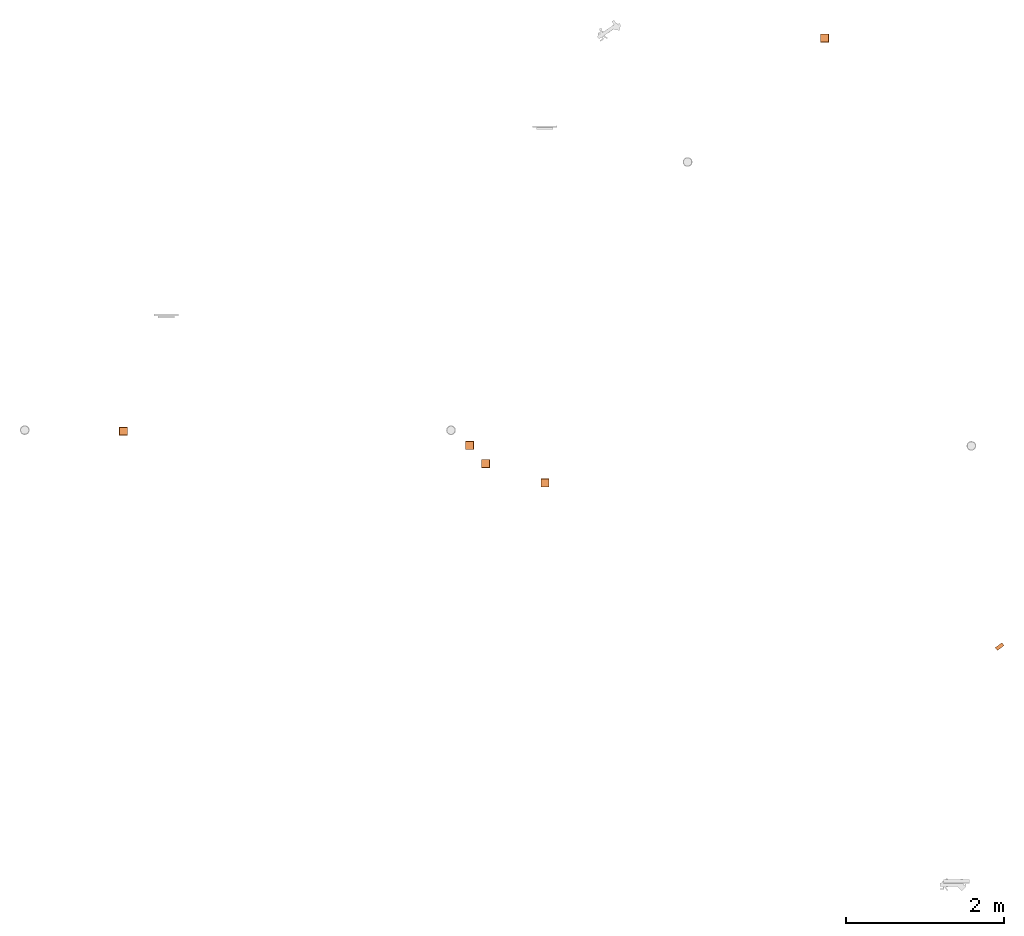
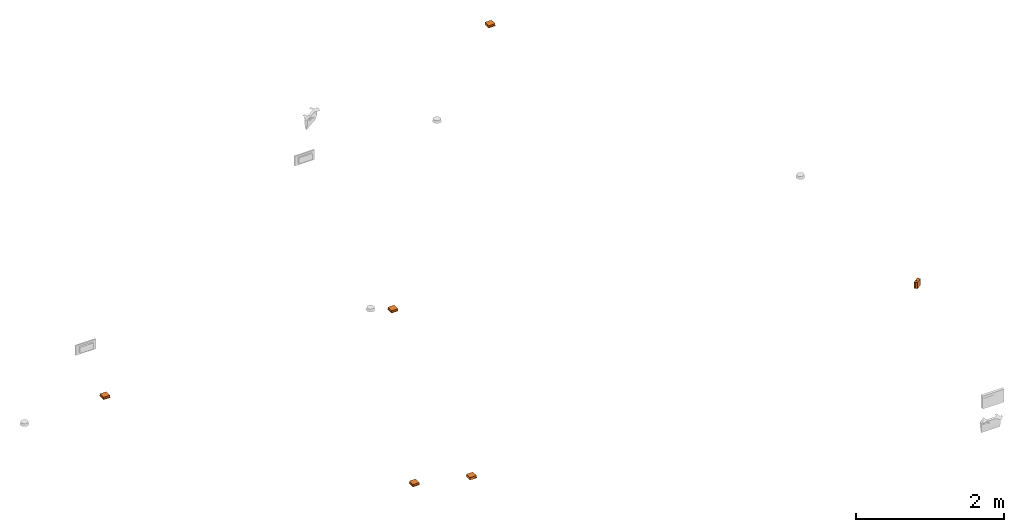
# One storey, part 2 of 2: 6 proxies.
"""IFC2X3 building model written with IfcOpenShell, lengths in millimetres."""

from ifc_helpers import new_model, entity, si_unit, converted_unit, derived_unit, direction, frame, frame_2d, origin, origin_2d_with_axis, place, context, subcontext, project, spatial, rectangle, circle, extrude, source, transform, mapped, material, type_object, element, save


model = new_model("IFC2X3")

# Units and contexts
model_context = context("Model", 3, precision=0.01, world=frame((0.0, 4.29681676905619e-09, 0.0)), true_north=direction((4.01073788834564e-13, 1.0)))
plan_context = context("Plan", 3, precision=0.01, world=frame((0.0, 4.29681676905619e-09, 0.0)), true_north=direction((4.01073788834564e-13, 1.0)))
body_context = subcontext(model_context, "Body", "Model", "MODEL_VIEW")
ifc_project = project(units=[converted_unit("PLANEANGLEUNIT", "DEGREE", entity("IfcPositiveLengthMeasure", 0.0174532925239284), si_unit("PLANEANGLEUNIT", "RADIAN"), dimensions=[0, 0, 0, 0, 0, 0, 0]), si_unit("AREAUNIT", "SQUARE_METRE"), si_unit("LENGTHUNIT", "METRE", prefix="MILLI"), si_unit("MASSUNIT", "GRAM", prefix="KILO"), si_unit("POWERUNIT", "WATT"), si_unit("PRESSUREUNIT", "PASCAL", prefix="KILO"), si_unit("FORCEUNIT", "NEWTON", prefix="KILO"), si_unit("ELECTRICVOLTAGEUNIT", "VOLT"), si_unit("ELECTRICCURRENTUNIT", "AMPERE"), si_unit("THERMODYNAMICTEMPERATUREUNIT", "DEGREE_CELSIUS"), si_unit("TIMEUNIT", "SECOND"), si_unit("VOLUMEUNIT", "CUBIC_METRE"), derived_unit("LINEARVELOCITYUNIT", [(si_unit("LENGTHUNIT", "METRE"), 1), (si_unit("TIMEUNIT", "SECOND"), -1)]), derived_unit("VOLUMETRICFLOWRATEUNIT", [(si_unit("VOLUMEUNIT", "CUBIC_METRE"), 1), (si_unit("TIMEUNIT", "SECOND"), -1)]), derived_unit("THERMALTRANSMITTANCEUNIT", [(si_unit("POWERUNIT", "WATT"), 1), (si_unit("THERMODYNAMICTEMPERATUREUNIT", "KELVIN"), -1), (si_unit("AREAUNIT", "SQUARE_METRE"), -1)]), derived_unit("SOUNDPRESSUREUNIT", [(si_unit("PRESSUREUNIT", "PASCAL"), 1)])], contexts=[model_context, plan_context])

# Site, building, storey
site_placement = place(None, frame((0.0, -4.29681676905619e-09, 0.0), z_axis=(0.0, 0.0, 1.0), x_axis=(1.0, 0.0, 0.0)))
site = spatial("IfcSite", under=ifc_project, at=site_placement, Name="Default", CompositionType="ELEMENT")
building_placement = place(site_placement, frame((0.0, 4.29681676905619e-09, 0.0), z_axis=(0.0, 0.0, 1.0), x_axis=(1.0, 0.0, 0.0)))
building = spatial("IfcBuilding", under=site, at=building_placement, CompositionType="ELEMENT")
storey_placement = place(building_placement, frame((0.0, 0.0, 210900.0), z_axis=(0.0, 0.0, 1.0), x_axis=(1.0, 0.0, 0.0)))
storey = spatial("IfcBuildingStorey", under=building, at=storey_placement, Name="Nivå F", CompositionType="ELEMENT", Elevation=210900.0)

# Proxies
ifc_material_1 = material(Name="<Unnamed>")
ifc_material_2 = material(Name="<Unnamed>")
building_element_proxy_type_1 = type_object("IfcBuildingElementProxyType", Name="Koblingsboks tak-himling:Koblingsboks tak-himling", PredefinedType="NOTDEFINED", material=ifc_material_2)
shared_shape_1 = source(origin(), body_context, "Body", "SweptSolid", [
    extrude(circle(Radius=7.40000009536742, at=frame_2d((0.0, -1.05748743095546e-14), x_axis=(1.0, 0.0))), frame((50.0000000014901, -16.6666666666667, -12.9499997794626), z_axis=(1.0, 0.0, 0.0), x_axis=(0.0, 1.0, 0.0)), (0.0, 0.0, 1.0), 0.199999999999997),
    extrude(circle(Radius=7.40000009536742, at=frame_2d((0.0, -1.05748743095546e-14), x_axis=(1.0, 0.0))), frame((50.0000000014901, 16.6666666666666, -12.9499997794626), z_axis=(1.0, 0.0, 0.0), x_axis=(0.0, 1.0, 0.0)), (0.0, 0.0, 1.0), 0.199999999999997),
    extrude(circle(Radius=7.40000009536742, at=frame_2d((-2.11497486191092e-15, -1.26898491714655e-14), x_axis=(1.0, 0.0))), frame((25.0, -50.2000000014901, -12.9499997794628), z_axis=(0.0, 1.0, 0.0), x_axis=(0.0, 0.0, 1.0)), (0.0, 0.0, 1.0), 0.199999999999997),
    extrude(circle(Radius=7.40000009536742, at=frame_2d((-2.11497486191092e-15, -1.19550300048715e-14), x_axis=(1.0, 0.0))), frame((0.0, -50.2000000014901, -12.9499997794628), z_axis=(0.0, 1.0, 0.0), x_axis=(0.0, 0.0, 1.0)), (0.0, 0.0, 1.0), 0.199999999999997),
    extrude(circle(Radius=7.40000009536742, at=frame_2d((-2.11497486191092e-15, -1.26898491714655e-14), x_axis=(1.0, 0.0))), frame((-25.0, -50.2000000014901, -12.9499997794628), z_axis=(0.0, 1.0, 0.0), x_axis=(0.0, 0.0, 1.0)), (0.0, 0.0, 1.0), 0.199999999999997),
    extrude(circle(Radius=7.40000009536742, at=frame_2d((-2.11497486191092e-15, -1.26898491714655e-14), x_axis=(1.0, 0.0))), frame((25.0, 50.0000000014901, -12.9499997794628), z_axis=(0.0, 1.0, 0.0), x_axis=(0.0, 0.0, 1.0)), (0.0, 0.0, 1.0), 0.199999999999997),
    extrude(circle(Radius=7.40000009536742, at=frame_2d((-2.11497486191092e-15, -1.19550300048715e-14), x_axis=(1.0, 0.0))), frame((0.0, 50.0000000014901, -12.9499997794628), z_axis=(0.0, 1.0, 0.0), x_axis=(0.0, 0.0, 1.0)), (0.0, 0.0, 1.0), 0.199999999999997),
    extrude(circle(Radius=7.40000009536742, at=frame_2d((-2.11497486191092e-15, -1.26898491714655e-14), x_axis=(1.0, 0.0))), frame((-25.0, 50.0000000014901, -12.9499997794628), z_axis=(0.0, 1.0, 0.0), x_axis=(0.0, 0.0, 1.0)), (0.0, 0.0, 1.0), 0.199999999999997),
    extrude(circle(Radius=7.40000009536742, at=frame_2d((0.0, -1.05748743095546e-14), x_axis=(1.0, 0.0))), frame((-50.2000000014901, -16.6666666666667, -12.9499997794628), z_axis=(1.0, 0.0, 0.0), x_axis=(0.0, 1.0, 0.0)), (0.0, 0.0, 1.0), 0.199999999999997),
    extrude(circle(Radius=7.40000009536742, at=frame_2d((0.0, -1.05748743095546e-14), x_axis=(1.0, 0.0))), frame((-50.2000000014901, 16.6666666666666, -12.9499997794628), z_axis=(1.0, 0.0, 0.0), x_axis=(0.0, 1.0, 0.0)), (0.0, 0.0, 1.0), 0.199999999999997),
    extrude(rectangle(XDim=99.9999999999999, YDim=99.9999999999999, at=origin_2d_with_axis()), frame((0.0, 0.0, -25.8999996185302), z_axis=(0.0, 0.0, 1.0), x_axis=(0.0, -1.0, 0.0)), (0.0, 0.0, 1.0), 25.8999996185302),
    extrude(rectangle(XDim=106.0, YDim=106.0, at=origin_2d_with_axis()), frame((0.0, 0.0, -37.0), z_axis=(0.0, 0.0, 1.0), x_axis=(0.0, -1.0, 0.0)), (0.0, 0.0, 1.0), 11.1000003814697),
])
for number, where, z_axis, x_axis, name in (
    (1, (722340.40190994, 440408.078957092, 2800.0), (0.0, 0.0, 1.0), (1.0, 0.0, 0.0), "Koblingsboks tak-himling:Koblingsboks tak-himling"),
    (2, (722542.15525216, 440176.75964685, 0.0), (0.0, 0.0, 1.0), (1.0, 0.0, 0.0), "Koblingsboks tak-himling:Koblingsboks tak-himling"),
    (3, (723294.982915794, 439933.157276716, 0.0), (0.0, 0.0, 1.0), (1.0, 0.0, 0.0), "Koblingsboks tak-himling:Koblingsboks tak-himling"),
    (4, (717950.000000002, 440586.997317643, 2800.0), (0.0, 0.0, 1.0), (1.0, 0.0, 0.0), "Koblingsboks tak-himling:Koblingsboks tak-himling"),
    (5, (726839.915177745, 445570.390058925, 2800.0), (0.0, 0.0, 1.0), (1.0, 0.0, 0.0), "Koblingsboks tak-himling:Koblingsboks tak-himling"),
):
    element("IfcBuildingElementProxy", number, at=place(storey_placement, frame(where, z_axis=z_axis, x_axis=x_axis)), inside=storey, type_object=building_element_proxy_type_1, material=ifc_material_1, Name=name, ObjectType="Koblingsboks tak-himling:Koblingsboks tak-himling", context=body_context, shape_type="MappedRepresentation", body=[
        mapped(shared_shape_1, transform((0.0, 0.0, 0.0), scale=1.0)),
    ])
building_element_proxy_type_2 = type_object("IfcBuildingElementProxyType", Name="Koblingsboks åpen:Koblingsboks åpen", PredefinedType="NOTDEFINED", material=ifc_material_2)
shared_shape_2 = source(origin(), body_context, "Body", "SweptSolid", [
    extrude(rectangle(XDim=110.0, YDim=13.8000001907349, at=frame_2d((0.0, 2.22044604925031e-15), x_axis=(1.0, 0.0))), frame((0.0, 39.1000008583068, -55.0)), (0.0, 0.0, 1.0), 110.0),
    extrude(rectangle(XDim=104.0, YDim=32.2000007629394, at=origin_2d_with_axis()), frame((0.0, 16.1000003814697, -52.0)), (0.0, 0.0, 1.0), 104.0),
])
proxy_placement = place(storey_placement, frame((729071.536902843, 437838.099400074, 2400.0), z_axis=(0.0, 0.0, 1.0), x_axis=(0.809016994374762, 0.587785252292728, 0.0)))
element("IfcBuildingElementProxy", 6, at=proxy_placement, inside=storey, type_object=building_element_proxy_type_2, material=ifc_material_1, Name="Koblingsboks åpen:Koblingsboks åpen", ObjectType="Koblingsboks åpen:Koblingsboks åpen", context=body_context, shape_type="MappedRepresentation", body=[
    mapped(shared_shape_2, transform((0.0, 0.0, 0.0), scale=1.0)),
])

save(model, "model.ifc")
